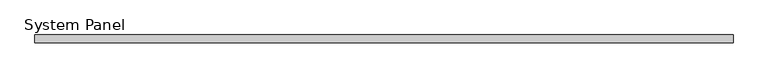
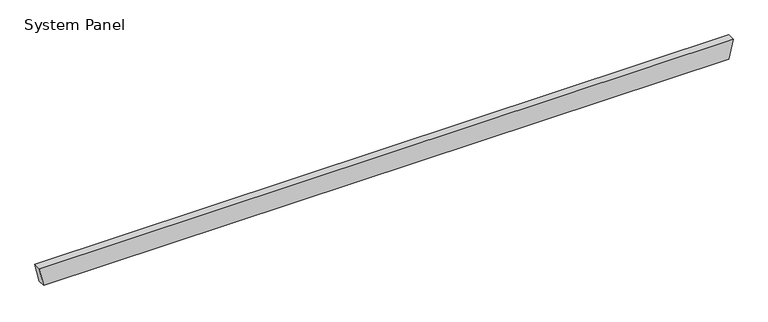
"""IFC4 building model written with IfcOpenShell, lengths in millimetres: plate geometry, System Panel : MetecnoPanel_150mm_Plain_Surfmist."""

from ifc_helpers import new_model, si_unit, frame, origin, place, context, project, spatial, polyline, outline, extrude, source, transform, mapped, element, save


def system_panel_e86207e9(model_context):
    return source(origin(), model_context, "Body", "SweptSolid", [
        extrude(outline(polyline([(0.0, -6717.3970701), (0.0, 6717.3970701), (379.9704237, 6800.0), (379.9704237, -6800.0), (0.0, -6717.3970701)])), frame((0.0, -150.0, 0.0), z_axis=(0.0, 1.0, 0.0), x_axis=(0.0, 0.0, 1.0)), (0.0, 0.0, 1.0), 150.0),
    ])


if __name__ == "__main__":
    model = new_model("IFC4")
    model_context = context("Model", 3, world=origin())
    ifc_project = project(units=[si_unit("LENGTHUNIT", "METRE", prefix="MILLI")], contexts=[model_context])
    site = spatial("IfcSite", under=ifc_project)
    building = spatial("IfcBuilding", under=site)
    placement = place(None, origin())
    system_panel_shape = system_panel_e86207e9(model_context)
    element("IfcPlate", 1, ObjectType="System Panel : MetecnoPanel_150mm_Plain_Surfmist", at=placement, inside=building, context=model_context, shape_type="MappedRepresentation", body=[
        mapped(system_panel_shape, transform((0.0, 0.0, 0.0), x_axis=(1.0, 0.0, 0.0), y_axis=(0.0, 1.0, 0.0), z_axis=(0.0, 0.0, 1.0))),
    ])
    save(model, "model.ifc")
